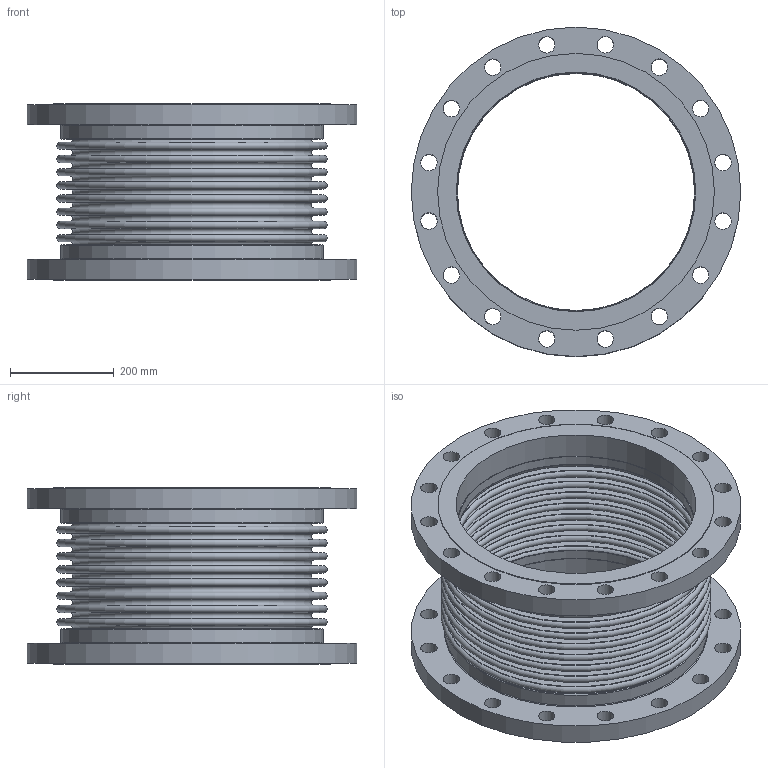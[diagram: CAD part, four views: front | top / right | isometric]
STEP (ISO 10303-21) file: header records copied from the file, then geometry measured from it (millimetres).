
FILE_DESCRIPTION(/* description */ ('EXPANSION JOINT,SINGLE, FLANGED ENDS,18 INCH','CAx-IF Rec.Pracs.---Representation and Presentation of Product Manufacturing Information (PMI)---4.0---2014-10-13'),/* implementation_level */ '2;1');
FILE_NAME(/* name */ 'US-18-8-85S-FLANGED ENDS.stp',/* time_stamp */ '2026-07-31T18:01:49-05:00',/* author */ ('Guadalupe'),/* organization */ (''),/* preprocessor_version */ 'ST-DEVELOPER v20.1',/* originating_system */ 'Autodesk Inventor 2026',/* authorisation */ '');
FILE_SCHEMA (('AP242_MANAGED_MODEL_BASED_3D_ENGINEERING_MIM_LF { 1 0 10303 442 2 1 4 }'));
Length unit declared in the file: inch
Products named in the file (3): 18-85S; 18-85S-02; 18-85S-01
Assembly tree (3 placements, depth 2):
  18-85S
    18-85S-02  x2
    18-85S-01
Bounding box: 635 x 635 x 339.34 mm (x, y, z)
Volume: 13640156.1 mm3; surface area: 3085878.7 mm2
Topology: 5 solids, 5 shells, 128 faces, 246 edges, 164 vertices
Faces by surface type: plane 46, cylinder 44, torus 38
Full cylindrical faces by diameter (mm): 31.75 x32, 457.2 x2, 459.638 x2, 461.772 x2, 504.952 x2, 533.4 x2, 635 x2
Entity records: 2870 total; most frequent: DIRECTION 578, CARTESIAN_POINT 425, ORIENTED_EDGE 360, AXIS2_PLACEMENT_3D 277, EDGE_CURVE 180, EDGE_LOOP 176, CIRCLE 156, VERTEX_POINT 120
